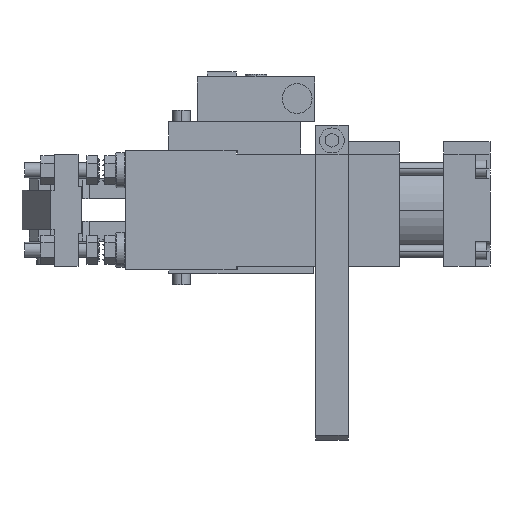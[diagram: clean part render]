
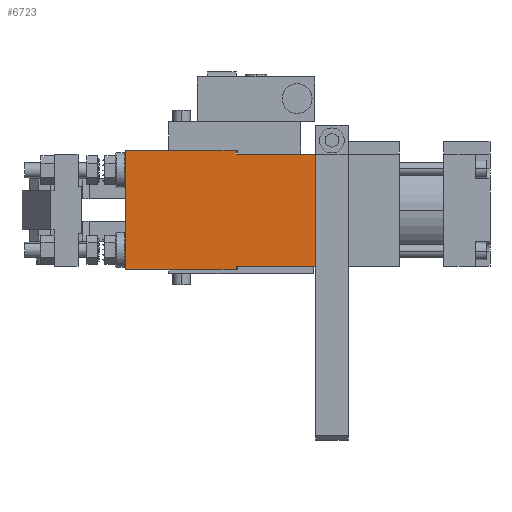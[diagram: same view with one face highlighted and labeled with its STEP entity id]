
A CAD part, left-side view. The second image highlights one B-rep face of the part: STEP entity #6723.
In plain terms, the highlighted planar face has unit normal (-1, 0, 0).
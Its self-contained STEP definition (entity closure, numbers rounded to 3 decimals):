
#343 = DIRECTION ( 'NONE',  ( 0., 1., 0. ) ) ;
#603 = DIRECTION ( 'NONE',  ( 0., 0., -1. ) ) ;
#1094 = CARTESIAN_POINT ( 'NONE',  ( -22.5, 22., -22.5 ) ) ;
#1655 = EDGE_CURVE ( 'NONE', #11726, #15757, #19861, .T. ) ;
#2169 = AXIS2_PLACEMENT_3D ( 'NONE', #6157, #12022, #343 ) ;
#2676 = CARTESIAN_POINT ( 'NONE',  ( -22.5, 22., 24. ) ) ;
#2800 = ORIENTED_EDGE ( 'NONE', *, *, #19432, .F. ) ;
#3622 = DIRECTION ( 'NONE',  ( 0., -1., 0. ) ) ;
#4196 = PLANE ( 'NONE',  #2169 ) ;
#4209 = LINE ( 'NONE', #1094, #12699 ) ;
#4462 = DIRECTION ( 'NONE',  ( 0., 0., 1. ) ) ;
#4848 = CARTESIAN_POINT ( 'NONE',  ( -22.5, -8., -24. ) ) ;
#5449 = CARTESIAN_POINT ( 'NONE',  ( -22.5, -8., 22.5 ) ) ;
#5816 = VECTOR ( 'NONE', #6047, 1000. ) ;
#5980 = LINE ( 'NONE', #10307, #24728 ) ;
#6047 = DIRECTION ( 'NONE',  ( 0., 0., 1. ) ) ;
#6058 = ORIENTED_EDGE ( 'NONE', *, *, #24224, .F. ) ;
#6157 = CARTESIAN_POINT ( 'NONE',  ( -22.5, 22., 12.5 ) ) ;
#6723 = ADVANCED_FACE ( 'NONE', ( #17026 ), #4196, .F. ) ;
#7080 = EDGE_CURVE ( 'NONE', #9517, #10117, #19422, .T. ) ;
#7573 = VECTOR ( 'NONE', #3622, 1000. ) ;
#7989 = VERTEX_POINT ( 'NONE', #18228 ) ;
#8189 = LINE ( 'NONE', #17076, #7573 ) ;
#8655 = LINE ( 'NONE', #2676, #13178 ) ;
#8817 = EDGE_CURVE ( 'NONE', #9129, #25030, #8655, .T. ) ;
#8953 = VECTOR ( 'NONE', #603, 1000. ) ;
#9129 = VERTEX_POINT ( 'NONE', #17214 ) ;
#9517 = VERTEX_POINT ( 'NONE', #4848 ) ;
#10117 = VERTEX_POINT ( 'NONE', #21071 ) ;
#10307 = CARTESIAN_POINT ( 'NONE',  ( -22.5, 36.5, 24. ) ) ;
#10741 = EDGE_LOOP ( 'NONE', ( #14674, #6058, #19605, #11016, #22702, #15182, #14479, #2800 ) ) ;
#10782 = CARTESIAN_POINT ( 'NONE',  ( -22.5, -40., -22.5 ) ) ;
#10879 = DIRECTION ( 'NONE',  ( 0., -1., 0. ) ) ;
#11016 = ORIENTED_EDGE ( 'NONE', *, *, #7080, .T. ) ;
#11726 = VERTEX_POINT ( 'NONE', #17244 ) ;
#11795 = DIRECTION ( 'NONE',  ( 0., 0., -1. ) ) ;
#12022 = DIRECTION ( 'NONE',  ( 1., 0., 0. ) ) ;
#12268 = CARTESIAN_POINT ( 'NONE',  ( -22.5, -8., 24. ) ) ;
#12699 = VECTOR ( 'NONE', #10879, 1000. ) ;
#13178 = VECTOR ( 'NONE', #21867, 1000. ) ;
#13796 = CARTESIAN_POINT ( 'NONE',  ( -22.5, -40., 12.5 ) ) ;
#14479 = ORIENTED_EDGE ( 'NONE', *, *, #14511, .F. ) ;
#14511 = EDGE_CURVE ( 'NONE', #24391, #11726, #8189, .T. ) ;
#14674 = ORIENTED_EDGE ( 'NONE', *, *, #8817, .F. ) ;
#15182 = ORIENTED_EDGE ( 'NONE', *, *, #1655, .F. ) ;
#15692 = CARTESIAN_POINT ( 'NONE',  ( -22.5, -8., -24. ) ) ;
#15757 = VERTEX_POINT ( 'NONE', #10782 ) ;
#15892 = CARTESIAN_POINT ( 'NONE',  ( -22.5, 22., -24. ) ) ;
#17026 = FACE_OUTER_BOUND ( 'NONE', #10741, .T. ) ;
#17076 = CARTESIAN_POINT ( 'NONE',  ( -22.5, 22., 22.5 ) ) ;
#17214 = CARTESIAN_POINT ( 'NONE',  ( -22.5, 36.5, 24. ) ) ;
#17244 = CARTESIAN_POINT ( 'NONE',  ( -22.5, -40., 22.5 ) ) ;
#18228 = CARTESIAN_POINT ( 'NONE',  ( -22.5, 36.5, -24. ) ) ;
#18614 = LINE ( 'NONE', #12268, #8953 ) ;
#19263 = VECTOR ( 'NONE', #11795, 1000. ) ;
#19422 = LINE ( 'NONE', #15692, #5816 ) ;
#19432 = EDGE_CURVE ( 'NONE', #25030, #24391, #18614, .T. ) ;
#19605 = ORIENTED_EDGE ( 'NONE', *, *, #20997, .T. ) ;
#19861 = LINE ( 'NONE', #13796, #19263 ) ;
#20002 = VECTOR ( 'NONE', #21721, 1000. ) ;
#20618 = LINE ( 'NONE', #15892, #20002 ) ;
#20875 = CARTESIAN_POINT ( 'NONE',  ( -22.5, -8., 24. ) ) ;
#20997 = EDGE_CURVE ( 'NONE', #7989, #9517, #20618, .T. ) ;
#21071 = CARTESIAN_POINT ( 'NONE',  ( -22.5, -8., -22.5 ) ) ;
#21721 = DIRECTION ( 'NONE',  ( 0., -1., 0. ) ) ;
#21867 = DIRECTION ( 'NONE',  ( 0., -1., 0. ) ) ;
#22702 = ORIENTED_EDGE ( 'NONE', *, *, #23266, .T. ) ;
#23266 = EDGE_CURVE ( 'NONE', #10117, #15757, #4209, .T. ) ;
#24224 = EDGE_CURVE ( 'NONE', #7989, #9129, #5980, .T. ) ;
#24391 = VERTEX_POINT ( 'NONE', #5449 ) ;
#24728 = VECTOR ( 'NONE', #4462, 1000. ) ;
#25030 = VERTEX_POINT ( 'NONE', #20875 ) ;
